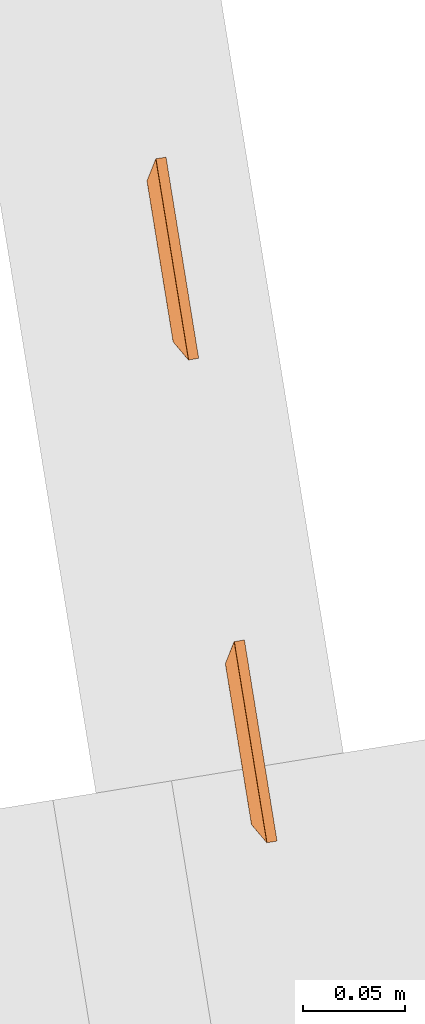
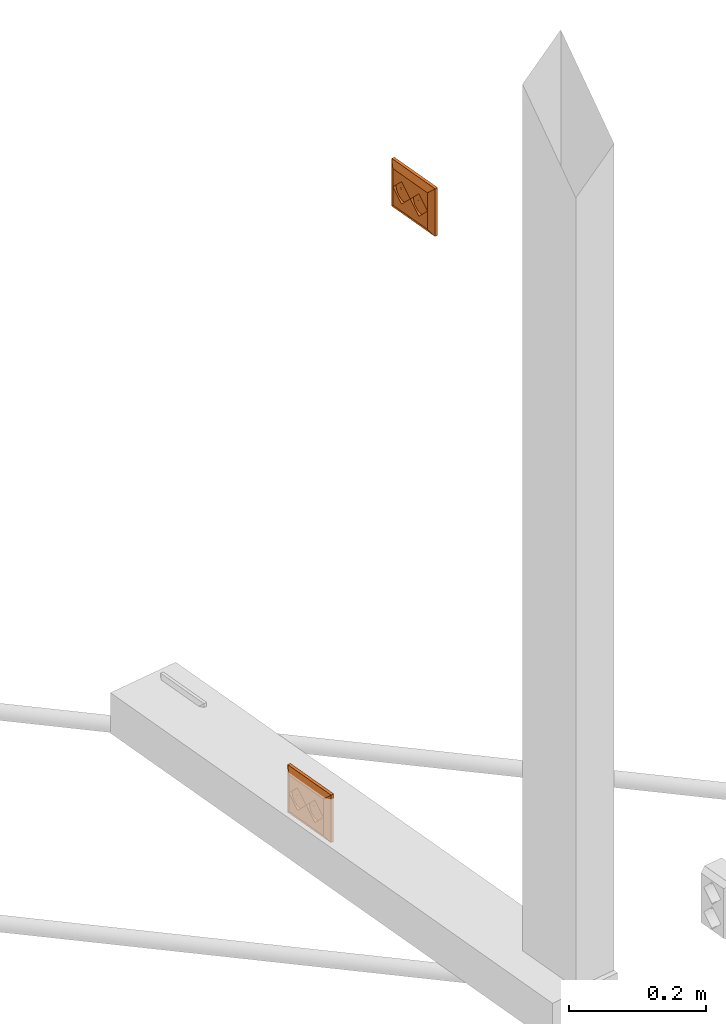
# One storey, part 13 of 33: 2 proxies.
"""IFC2X3 building model written with IfcOpenShell, lengths in millimetres."""

from ifc_helpers import new_model, entity, si_unit, converted_unit, derived_unit, direction, frame, frame_2d, origin, origin_with_axes, origin_2d_with_axis, place, context, subcontext, project, spatial, polyline, circle_curve, parameter, trimmed, segment, composite_curve, rectangle, circle, hollow_circle, outline, extrude, source, transform, mapped, material, type_object, element, save


model = new_model("IFC2X3")

# Units and contexts
plan_context = context("Plan", 3, precision=1e-05, world=origin_with_axes())
model_context = context("Model", 3, precision=0.01, world=origin(), true_north=direction((6.12323399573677e-17, 1.0)))
body_context = subcontext(model_context, "Body", "Model", "MODEL_VIEW")
ifc_project = project(units=[converted_unit("PLANEANGLEUNIT", "DEGREE", entity("IfcPositiveLengthMeasure", 0.0174532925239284), si_unit("PLANEANGLEUNIT", "RADIAN"), dimensions=[0, 0, 0, 0, 0, 0, 0]), si_unit("AREAUNIT", "SQUARE_METRE"), si_unit("LENGTHUNIT", "METRE", prefix="MILLI"), si_unit("MASSUNIT", "GRAM", prefix="KILO"), si_unit("POWERUNIT", "WATT"), si_unit("PRESSUREUNIT", "PASCAL", prefix="KILO"), si_unit("FORCEUNIT", "NEWTON", prefix="KILO"), si_unit("ELECTRICVOLTAGEUNIT", "VOLT"), si_unit("ELECTRICCURRENTUNIT", "AMPERE"), si_unit("THERMODYNAMICTEMPERATUREUNIT", "DEGREE_CELSIUS"), si_unit("TIMEUNIT", "SECOND"), si_unit("VOLUMEUNIT", "CUBIC_METRE"), derived_unit("LINEARVELOCITYUNIT", [(si_unit("LENGTHUNIT", "METRE"), 1), (si_unit("TIMEUNIT", "SECOND"), -1)]), derived_unit("VOLUMETRICFLOWRATEUNIT", [(si_unit("VOLUMEUNIT", "CUBIC_METRE"), 1), (si_unit("TIMEUNIT", "SECOND"), -1)]), derived_unit("THERMALTRANSMITTANCEUNIT", [(si_unit("POWERUNIT", "WATT"), 1), (si_unit("THERMODYNAMICTEMPERATUREUNIT", "KELVIN"), -1), (si_unit("AREAUNIT", "SQUARE_METRE"), -1)]), derived_unit("SOUNDPRESSUREUNIT", [(si_unit("PRESSUREUNIT", "PASCAL"), 1)])], contexts=[model_context, plan_context])

# Site, building, storey
site_placement = place(None, frame((-0.219946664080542, 0.12226179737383, 0.0), z_axis=(0.0, 0.0, 1.0), x_axis=(-0.160236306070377, 0.987078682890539, 0.0)))
site = spatial("IfcSite", under=ifc_project, at=site_placement, Name="Default", CompositionType="ELEMENT")
building_placement = place(site_placement, origin_with_axes())
building = spatial("IfcBuilding", under=site, at=building_placement, CompositionType="ELEMENT")
storey_placement = place(building_placement, frame((0.0, 0.0, 59000.0), z_axis=(0.0, 0.0, 1.0), x_axis=(1.0, 0.0, 0.0)))
storey = spatial("IfcBuildingStorey", under=building, at=storey_placement, Name="Nivå F", CompositionType="ELEMENT", Elevation=59000.0)

# Proxies
ifc_material = material(Name="<Unnamed>")
building_element_proxy_type = type_object("IfcBuildingElementProxyType", Name="Dobbel stikk i kanal 2P+J hor innfelt:RECESSED-SOCKET-2(HOR)", PredefinedType="NOTDEFINED", material=ifc_material)
shared_shape = source(origin(), body_context, "Body", "SweptSolid", [
    extrude(outline(composite_curve([segment(polyline([(-6.66666666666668, -6.66666666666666), (13.3333333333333, -6.66666666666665)]), True, "CONTINUOUS"), segment(trimmed(circle_curve(frame_2d((13.3333333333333, 13.3333333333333), x_axis=(0.0, -1.0)), 20.0), [parameter(270.0)], [parameter(5.08888749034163e-14)], True, "PARAMETER"), False, "CONTINUOUS"), segment(polyline([(-6.66666666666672, 13.3333333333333), (-6.66666666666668, -6.66666666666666)]), True, "CONTINUOUS")], self_intersect=False)), frame((33.3333333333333, 10.9, 13.3933333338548), z_axis=(0.0, 1.0, 0.0), x_axis=(0.0, 0.0, -1.0)), (0.0, 0.0, 1.0), 0.200000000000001),
    extrude(outline(composite_curve([segment(polyline([(-6.66666666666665, -6.66666666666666), (13.3333333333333, -6.66666666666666)]), True, "CONTINUOUS"), segment(trimmed(circle_curve(frame_2d((13.3333333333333, 13.3333333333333), x_axis=(-1.0, 0.0)), 20.0), [parameter(360.0)], [parameter(90.0)], True, "PARAMETER"), False, "CONTINUOUS"), segment(polyline([(-6.66666666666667, 13.3333333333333), (-6.66666666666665, -6.66666666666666)]), True, "CONTINUOUS")], self_intersect=False)), frame((33.3333333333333, 10.9, -13.3233333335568), z_axis=(0.0, 1.0, 0.0), x_axis=(-1.0, 0.0, 0.0)), (0.0, 0.0, 1.0), 0.200000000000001),
    extrude(outline(composite_curve([segment(polyline([(-6.66666666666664, -6.66666666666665), (13.3333333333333, -6.66666666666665)]), True, "CONTINUOUS"), segment(trimmed(circle_curve(frame_2d((13.3333333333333, 13.3333333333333), x_axis=(-1.0, 0.0)), 20.0), [parameter(0.0)], [parameter(89.9999999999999)], True, "PARAMETER"), False, "CONTINUOUS"), segment(polyline([(-6.66666666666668, 13.3333333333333), (-6.66666666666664, -6.66666666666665)]), True, "CONTINUOUS")], self_intersect=False)), frame((6.66666666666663, 10.9, 13.3433333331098), z_axis=(0.0, 1.0, 0.0), x_axis=(1.0, 0.0, 0.0)), (0.0, 0.0, 1.0), 0.200000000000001),
    extrude(outline(composite_curve([segment(polyline([(-6.66666666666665, -6.66666666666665), (13.3333333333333, -6.66666666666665)]), True, "CONTINUOUS"), segment(trimmed(circle_curve(frame_2d((13.3333333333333, 13.3333333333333), x_axis=(-1.0, 0.0)), 20.0), [parameter(0.0)], [parameter(90.0)], True, "PARAMETER"), False, "CONTINUOUS"), segment(polyline([(-6.66666666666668, 13.3333333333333), (-6.66666666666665, -6.66666666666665)]), True, "CONTINUOUS")], self_intersect=False)), frame((33.3333333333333, 10.9, -13.3833333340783), z_axis=(0.0, 1.0, 0.0), x_axis=(-1.0, 0.0, 0.0)), (0.0, 0.0, 1.0), 0.200000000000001),
    extrude(outline(composite_curve([segment(polyline([(-6.66666666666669, -6.66666666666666), (13.3333333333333, -6.66666666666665)]), True, "CONTINUOUS"), segment(trimmed(circle_curve(frame_2d((13.3333333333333, 13.3333333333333), x_axis=(0.0, -1.0)), 20.0), [parameter(270.0)], [parameter(5.08888749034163e-14)], True, "PARAMETER"), False, "CONTINUOUS"), segment(polyline([(-6.66666666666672, 13.3333333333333), (-6.66666666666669, -6.66666666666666)]), True, "CONTINUOUS")], self_intersect=False)), frame((33.3333333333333, 10.9, 13.3333333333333), z_axis=(0.0, 1.0, 0.0), x_axis=(0.0, 0.0, -1.0)), (0.0, 0.0, 1.0), 0.200000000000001),
    extrude(outline(composite_curve([segment(polyline([(-6.66666666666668, -6.66666666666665), (13.3333333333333, -6.66666666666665)]), True, "CONTINUOUS"), segment(trimmed(circle_curve(frame_2d((13.3333333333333, 13.3333333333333), x_axis=(0.0, -1.0)), 20.0), [parameter(270.0)], [parameter(0.0)], True, "PARAMETER"), False, "CONTINUOUS"), segment(polyline([(-6.66666666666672, 13.3333333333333), (-6.66666666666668, -6.66666666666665)]), True, "CONTINUOUS")], self_intersect=False)), frame((6.66666666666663, 10.9, -13.3333333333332), z_axis=(0.0, 1.0, 0.0), x_axis=(0.0, 0.0, 1.0)), (0.0, 0.0, 1.0), 0.200000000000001),
    extrude(outline(composite_curve([segment(polyline([(-6.66666666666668, -6.66666666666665), (13.3333333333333, -6.66666666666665)]), True, "CONTINUOUS"), segment(trimmed(circle_curve(frame_2d((13.3333333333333, 13.3333333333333), x_axis=(0.0, -1.0)), 20.0), [parameter(270.0)], [parameter(0.0)], True, "PARAMETER"), False, "CONTINUOUS"), segment(polyline([(-6.66666666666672, 13.3333333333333), (-6.66666666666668, -6.66666666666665)]), True, "CONTINUOUS")], self_intersect=False)), frame((-6.66666666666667, 10.9, 13.3933333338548), z_axis=(0.0, 1.0, 0.0), x_axis=(0.0, 0.0, -1.0)), (0.0, 0.0, 1.0), 0.200000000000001),
    extrude(outline(composite_curve([segment(polyline([(-6.66666666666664, -6.66666666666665), (13.3333333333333, -6.66666666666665)]), True, "CONTINUOUS"), segment(trimmed(circle_curve(frame_2d((13.3333333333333, 13.3333333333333), x_axis=(-1.0, 0.0)), 20.0), [parameter(0.0)], [parameter(90.0)], True, "PARAMETER"), False, "CONTINUOUS"), segment(polyline([(-6.66666666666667, 13.3333333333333), (-6.66666666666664, -6.66666666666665)]), True, "CONTINUOUS")], self_intersect=False)), frame((-6.66666666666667, 10.9, -13.3233333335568), z_axis=(0.0, 1.0, 0.0), x_axis=(-1.0, 0.0, 0.0)), (0.0, 0.0, 1.0), 0.200000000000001),
    extrude(outline(composite_curve([segment(polyline([(-6.66666666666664, -6.66666666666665), (13.3333333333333, -6.66666666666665)]), True, "CONTINUOUS"), segment(trimmed(circle_curve(frame_2d((13.3333333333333, 13.3333333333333), x_axis=(-1.0, 0.0)), 20.0), [parameter(0.0)], [parameter(89.9999999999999)], True, "PARAMETER"), False, "CONTINUOUS"), segment(polyline([(-6.66666666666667, 13.3333333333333), (-6.66666666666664, -6.66666666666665)]), True, "CONTINUOUS")], self_intersect=False)), frame((-33.3333333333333, 10.9, 13.3433333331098), z_axis=(0.0, 1.0, 0.0), x_axis=(1.0, 0.0, 0.0)), (0.0, 0.0, 1.0), 0.200000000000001),
    extrude(outline(composite_curve([segment(polyline([(-6.66666666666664, -6.66666666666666), (13.3333333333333, -6.66666666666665)]), True, "CONTINUOUS"), segment(trimmed(circle_curve(frame_2d((13.3333333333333, 13.3333333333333), x_axis=(-1.0, 0.0)), 20.0), [parameter(0.0)], [parameter(90.0)], True, "PARAMETER"), False, "CONTINUOUS"), segment(polyline([(-6.66666666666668, 13.3333333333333), (-6.66666666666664, -6.66666666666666)]), True, "CONTINUOUS")], self_intersect=False)), frame((-6.66666666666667, 10.9, -13.3833333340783), z_axis=(0.0, 1.0, 0.0), x_axis=(-1.0, 0.0, 0.0)), (0.0, 0.0, 1.0), 0.200000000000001),
    extrude(outline(composite_curve([segment(polyline([(-6.66666666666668, -6.66666666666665), (13.3333333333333, -6.66666666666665)]), True, "CONTINUOUS"), segment(trimmed(circle_curve(frame_2d((13.3333333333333, 13.3333333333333), x_axis=(0.0, -1.0)), 20.0), [parameter(270.0)], [parameter(0.0)], True, "PARAMETER"), False, "CONTINUOUS"), segment(polyline([(-6.66666666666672, 13.3333333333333), (-6.66666666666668, -6.66666666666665)]), True, "CONTINUOUS")], self_intersect=False)), frame((-6.66666666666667, 10.9, 13.3333333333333), z_axis=(0.0, 1.0, 0.0), x_axis=(0.0, 0.0, -1.0)), (0.0, 0.0, 1.0), 0.200000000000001),
    extrude(outline(composite_curve([segment(polyline([(-6.66666666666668, -6.66666666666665), (13.3333333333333, -6.66666666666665)]), True, "CONTINUOUS"), segment(trimmed(circle_curve(frame_2d((13.3333333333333, 13.3333333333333), x_axis=(0.0, -1.0)), 20.0), [parameter(270.0)], [parameter(0.0)], True, "PARAMETER"), False, "CONTINUOUS"), segment(polyline([(-6.66666666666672, 13.3333333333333), (-6.66666666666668, -6.66666666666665)]), True, "CONTINUOUS")], self_intersect=False)), frame((-33.3333333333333, 10.9, -13.3333333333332), z_axis=(0.0, 1.0, 0.0), x_axis=(0.0, 0.0, 1.0)), (0.0, 0.0, 1.0), 0.200000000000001),
    extrude(rectangle(XDim=0.200000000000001, YDim=40.0, at=origin_2d_with_axis()), frame((20.0, 11.0, 20.0099999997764), z_axis=(0.0, 0.0, 1.0), x_axis=(0.0, -1.0, 0.0)), (0.0, 0.0, 1.0), 12.5),
    extrude(rectangle(XDim=0.200000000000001, YDim=40.0, at=origin_2d_with_axis()), frame((20.0, 11.0, -32.4999999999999), z_axis=(0.0, 0.0, 1.0), x_axis=(0.0, 1.0, 0.0)), (0.0, 0.0, 1.0), 12.5),
    extrude(rectangle(XDim=0.200000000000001, YDim=40.0, at=origin_2d_with_axis()), frame((-20.0, 11.0, 20.0099999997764), z_axis=(0.0, 0.0, 1.0), x_axis=(0.0, -1.0, 0.0)), (0.0, 0.0, 1.0), 12.5),
    extrude(rectangle(XDim=0.200000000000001, YDim=40.0, at=origin_2d_with_axis()), frame((-20.0, 11.0, -32.4999999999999), z_axis=(0.0, 0.0, 1.0), x_axis=(0.0, 1.0, 0.0)), (0.0, 0.0, 1.0), 12.5),
    extrude(outline(polyline([(21.6113592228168, -34.1606374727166), (36.973650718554, -34.1606374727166), (-28.120804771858, 41.7518902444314), (-30.4642051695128, 26.5693847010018), (21.6113592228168, -34.1606374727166)])), frame((0.0, 7.91425070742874, -37.4485504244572), z_axis=(0.0, 0.857492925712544, -0.514495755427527), x_axis=(0.65094455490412, -0.390566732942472, -0.650944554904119)), (0.0, 0.0, 1.0), 0.2),
    extrude(outline(polyline([(-40.0, -5.83095189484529), (40.0, -5.83095189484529), (50.0, 5.83095189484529), (-50.0, 5.8309518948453), (-40.0, -5.83095189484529)])), frame((0.0, 7.91425070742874, 37.4485504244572), z_axis=(0.0, 0.857492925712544, 0.514495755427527), x_axis=(-1.0, 0.0, 0.0)), (0.0, 0.0, 1.0), 0.199999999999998),
    extrude(outline(polyline([(-32.0915665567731, -28.4671978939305), (-16.7292750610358, -28.4671978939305), (25.5821210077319, 20.8759451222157), (23.238720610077, 36.0584506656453), (-32.0915665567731, -28.4671978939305)])), frame((44.9485504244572, 7.91425070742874, 0.0), z_axis=(0.514495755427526, 0.857492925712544, 0.0), x_axis=(-0.650944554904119, 0.390566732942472, 0.650944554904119)), (0.0, 0.0, 1.0), 0.200000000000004),
    extrude(outline(polyline([(-42.5, -5.8309518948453), (42.5, -5.8309518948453), (32.5, 5.83095189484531), (-32.5, 5.8309518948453), (-42.5, -5.8309518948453)])), frame((-44.9485504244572, 7.91425070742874, 0.0), z_axis=(-0.514495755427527, 0.857492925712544, 0.0), x_axis=(0.0, 0.0, 1.0)), (0.0, 0.0, 1.0), 0.2),
    extrude(circle(Radius=2.5, at=frame_2d((0.0, -4.22994972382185e-15), x_axis=(1.0, 0.0))), frame((30.0, 5.4, 0.0), z_axis=(0.0, 1.0, 0.0), x_axis=(0.0, 0.0, 1.0)), (0.0, 0.0, 1.0), 0.2),
    extrude(circle(Radius=2.5, at=frame_2d((0.0, -4.22994972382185e-15), x_axis=(1.0, 0.0))), frame((10.0, 5.4, 0.0), z_axis=(0.0, 1.0, 0.0), x_axis=(0.0, 0.0, 1.0)), (0.0, 0.0, 1.0), 0.2),
    extrude(circle(Radius=2.5, at=frame_2d((0.0, -4.22994972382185e-15), x_axis=(1.0, 0.0))), frame((-10.0, 5.4, 0.0), z_axis=(0.0, 1.0, 0.0), x_axis=(0.0, 0.0, 1.0)), (0.0, 0.0, 1.0), 0.2),
    extrude(circle(Radius=2.5, at=frame_2d((0.0, -4.22994972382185e-15), x_axis=(1.0, 0.0))), frame((-30.0, 5.4, 0.0), z_axis=(0.0, 1.0, 0.0), x_axis=(0.0, 0.0, 1.0)), (0.0, 0.0, 1.0), 0.2),
    extrude(circle(Radius=20.0, at=frame_2d((0.0, -3.38395977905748e-14), x_axis=(1.0, 0.0))), frame((20.0, 4.89999999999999, 0.0), z_axis=(0.0, 1.0, 0.0), x_axis=(0.0, 0.0, 1.0)), (0.0, 0.0, 1.0), 0.2),
    extrude(circle(Radius=20.0, at=frame_2d((0.0, -3.38395977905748e-14), x_axis=(1.0, 0.0))), frame((-20.0, 4.89999999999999, 0.0), z_axis=(0.0, 1.0, 0.0), x_axis=(0.0, 0.0, 1.0)), (0.0, 0.0, 1.0), 0.2),
    extrude(rectangle(XDim=99.9999999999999, YDim=4.99999999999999, at=origin_2d_with_axis()), frame((0.0, 2.5, -42.5)), (0.0, 0.0, 1.0), 84.9999999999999),
    extrude(hollow_circle(Radius=20.0, WallThickness=0.199999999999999, at=frame_2d((0.0, -3.38395977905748e-14), x_axis=(1.0, 0.0))), frame((20.0, 5.0, 0.0), z_axis=(0.0, 1.0, 0.0), x_axis=(0.0, 0.0, 1.0)), (0.0, 0.0, 1.0), 5.99999999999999),
    extrude(hollow_circle(Radius=20.0, WallThickness=0.199999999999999, at=frame_2d((0.0, -3.38395977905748e-14), x_axis=(1.0, 0.0))), frame((-20.0, 5.0, 0.0), z_axis=(0.0, 1.0, 0.0), x_axis=(0.0, 0.0, 1.0)), (0.0, 0.0, 1.0), 5.99999999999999),
])
for number, where, z_axis, x_axis in (
    (1, (771660.134444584, -503780.166395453, 790.0), (0.0, 0.0, 1.0), (1.0, 0.0, 0.0)),
    (2, (771420.134444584, -503780.166395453, 2000.0), (0.0, 0.0, 1.0), (1.0, 0.0, 0.0)),
):
    element("IfcBuildingElementProxy", number, at=place(storey_placement, frame(where, z_axis=z_axis, x_axis=x_axis)), inside=storey, type_object=building_element_proxy_type, material=ifc_material, Name="Dobbel stikk i kanal 2P+J hor innfelt:RECESSED-SOCKET-2(HOR)", ObjectType="Dobbel stikk i kanal 2P+J hor innfelt:RECESSED-SOCKET-2(HOR)", context=body_context, shape_type="MappedRepresentation", body=[
        mapped(shared_shape, transform((0.0, 0.0, 0.0), scale=1.0)),
    ])

save(model, "model.ifc")
